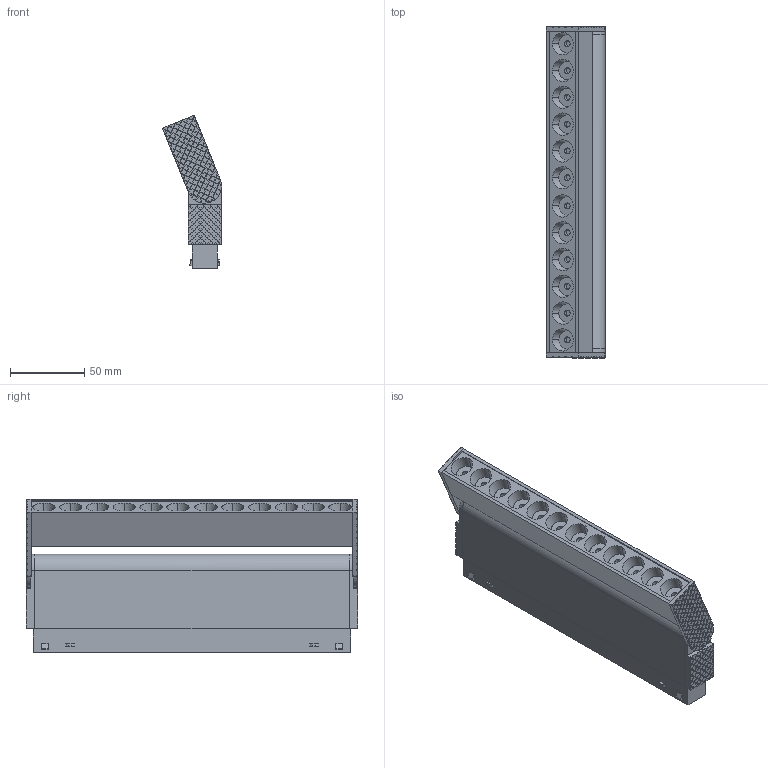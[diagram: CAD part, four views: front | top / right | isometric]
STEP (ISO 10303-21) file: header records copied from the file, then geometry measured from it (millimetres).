
FILE_DESCRIPTION(/* description */ (''),/* implementation_level */ '2;1');
FILE_NAME(/* name */ 'KL-T10~2',/* time_stamp */ '2026-07-07T11:03:17+08:00',/* author */ (''),/* organization */ (''),/* preprocessor_version */ 'ST-DEVELOPER v16.5',/* originating_system */ '',/* authorisation */ '');
FILE_SCHEMA (('CONFIG_CONTROL_DESIGN'));
Length unit declared in the file: millimetre
Products named in the file (1): Document
Bounding box: 39.66 x 223 x 102.87 mm (x, y, z)
Volume: 396219.9 mm3; surface area: 115157.9 mm2
Topology: 25 solids, 25 shells, 2126 faces, 5280 edges, 3512 vertices
Faces by surface type: plane 2017, cylinder 85, bspline 24
Entity records: 54838 total; most frequent: CARTESIAN_POINT 17002, ORIENTED_EDGE 10560, EDGE_CURVE 5280, B_SPLINE_CURVE_WITH_KNOTS 5046, VERTEX_POINT 3512, EDGE_LOOP 2434, ADVANCED_FACE 2126, FACE_OUTER_BOUND 2126
